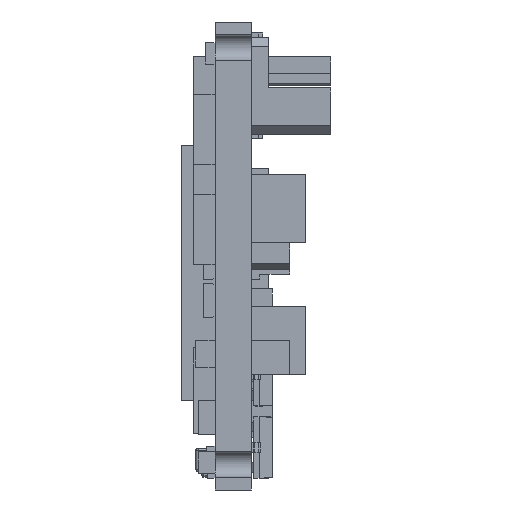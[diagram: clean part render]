
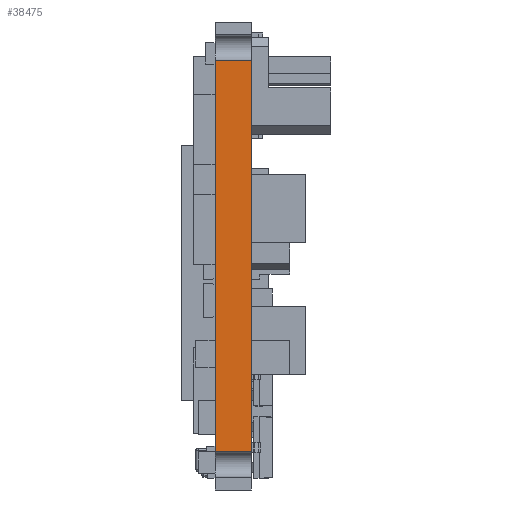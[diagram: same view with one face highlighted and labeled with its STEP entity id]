
A CAD part, left-side view. The second image highlights one B-rep face of the part: STEP entity #38475.
In plain terms, the highlighted planar face has unit normal (-1, 0, 0).
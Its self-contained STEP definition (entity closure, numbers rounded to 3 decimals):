
#135=DIRECTION('',(0.,0.,1.));
#136=VECTOR('',#135,18.4);
#137=CARTESIAN_POINT('',(0.,-0.85,-20.2));
#138=LINE('',#137,#136);
#1503=DIRECTION('',(0.,-1.,0.));
#1504=VECTOR('',#1503,1.7);
#1505=CARTESIAN_POINT('',(0.,0.85,-20.2));
#1506=LINE('',#1505,#1504);
#1511=DIRECTION('',(0.,0.,1.));
#1512=VECTOR('',#1511,18.4);
#1513=CARTESIAN_POINT('',(0.,0.85,-20.2));
#1514=LINE('',#1513,#1512);
#1519=DIRECTION('',(0.,1.,0.));
#1520=VECTOR('',#1519,1.7);
#1521=CARTESIAN_POINT('',(0.,-0.85,-1.8));
#1522=LINE('',#1521,#1520);
#28553=CARTESIAN_POINT('',(0.,-0.85,-20.2));
#28554=CARTESIAN_POINT('',(0.,-0.85,-1.8));
#28555=VERTEX_POINT('',#28553);
#28556=VERTEX_POINT('',#28554);
#29513=CARTESIAN_POINT('',(0.,0.85,-20.2));
#29514=VERTEX_POINT('',#29513);
#29517=CARTESIAN_POINT('',(0.,0.85,-1.8));
#29518=VERTEX_POINT('',#29517);
#38462=CARTESIAN_POINT('',(0.,-0.8,-22.));
#38463=DIRECTION('',(-1.,0.,0.));
#38464=DIRECTION('',(0.,0.,1.));
#38465=AXIS2_PLACEMENT_3D('',#38462,#38463,#38464);
#38466=PLANE('',#38465);
#38468=ORIENTED_EDGE('',*,*,#38467,.F.);
#38469=ORIENTED_EDGE('',*,*,#37346,.F.);
#38470=ORIENTED_EDGE('',*,*,#38451,.F.);
#38472=ORIENTED_EDGE('',*,*,#38471,.T.);
#38473=EDGE_LOOP('',(#38468,#38469,#38470,#38472));
#38474=FACE_OUTER_BOUND('',#38473,.F.);
#38475=ADVANCED_FACE('',(#38474),#38466,.T.);
#37346=EDGE_CURVE('',#28555,#28556,#138,.T.);
#38451=EDGE_CURVE('',#29514,#28555,#1506,.T.);
#38467=EDGE_CURVE('',#28556,#29518,#1522,.T.);
#38471=EDGE_CURVE('',#29514,#29518,#1514,.T.);
